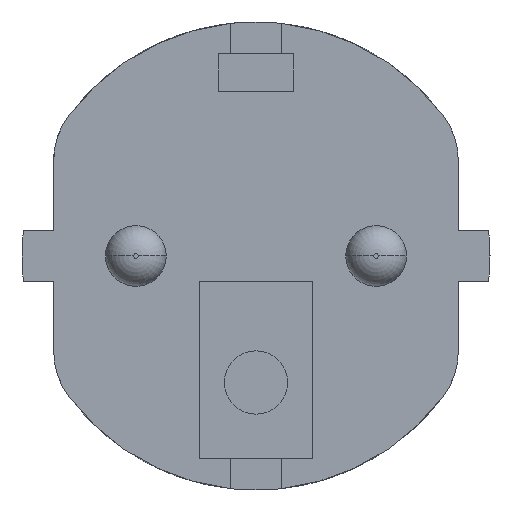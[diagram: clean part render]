
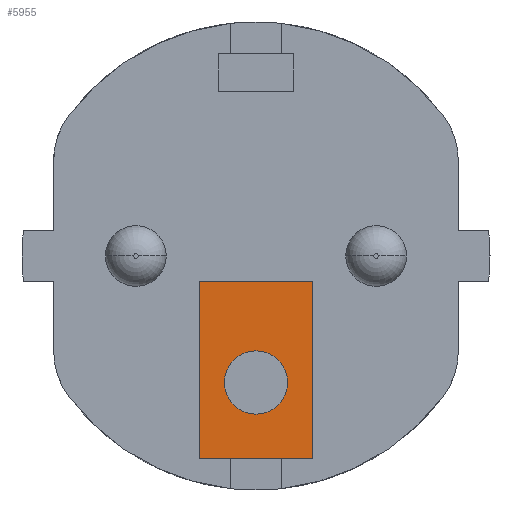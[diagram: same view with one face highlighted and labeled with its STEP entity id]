
A CAD part, front view. The second image highlights one B-rep face of the part: STEP entity #5955.
In plain terms, the highlighted planar face has unit normal (0, -1, 0) as drawn and (1, 0, 0) by its records, which use the part's own axes.
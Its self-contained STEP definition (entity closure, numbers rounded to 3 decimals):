
#120 = LINE ( 'NONE', #4898, #6771 ) ;
#292 = VERTEX_POINT ( 'NONE', #317 ) ;
#317 = CARTESIAN_POINT ( 'NONE',  ( 438.6, 224.5, 417.5 ) ) ;
#337 = AXIS2_PLACEMENT_3D ( 'NONE', #552, #6834, #9253 ) ;
#372 = LINE ( 'NONE', #3616, #8650 ) ;
#377 = EDGE_CURVE ( 'NONE', #10053, #2213, #372, .T. ) ;
#552 = CARTESIAN_POINT ( 'NONE',  ( 438.6, 222., 417.5 ) ) ;
#605 = VECTOR ( 'NONE', #6792, 1000. ) ;
#854 = DIRECTION ( 'NONE',  ( 0., -1., 0. ) ) ;
#1076 = FACE_BOUND ( 'NONE', #1927, .T. ) ;
#1400 = CARTESIAN_POINT ( 'NONE',  ( 438.6, 228., 413. ) ) ;
#1415 = EDGE_CURVE ( 'NONE', #8469, #4173, #8133, .T. ) ;
#1774 = AXIS2_PLACEMENT_3D ( 'NONE', #10212, #2257, #8536 ) ;
#1883 = LINE ( 'NONE', #3586, #605 ) ;
#1927 = EDGE_LOOP ( 'NONE', ( #4421, #7378 ) ) ;
#2213 = VERTEX_POINT ( 'NONE', #8623 ) ;
#2257 = DIRECTION ( 'NONE',  ( 1., 0., 0. ) ) ;
#2415 = ORIENTED_EDGE ( 'NONE', *, *, #9798, .F. ) ;
#2464 = EDGE_CURVE ( 'NONE', #292, #6171, #7264, .T. ) ;
#2647 = CARTESIAN_POINT ( 'NONE',  ( 438.6, 219.5, 417.5 ) ) ;
#3446 = LINE ( 'NONE', #6465, #9130 ) ;
#3586 = CARTESIAN_POINT ( 'NONE',  ( 438.6, 228., 422. ) ) ;
#3616 = CARTESIAN_POINT ( 'NONE',  ( 438.6, 228., 3071.587 ) ) ;
#3627 = ORIENTED_EDGE ( 'NONE', *, *, #4353, .F. ) ;
#3748 = FACE_OUTER_BOUND ( 'NONE', #10333, .T. ) ;
#4092 = VECTOR ( 'NONE', #5495, 1000. ) ;
#4173 = VERTEX_POINT ( 'NONE', #4582 ) ;
#4214 = ORIENTED_EDGE ( 'NONE', *, *, #10188, .F. ) ;
#4234 = CARTESIAN_POINT ( 'NONE',  ( 438.6, 214., 413. ) ) ;
#4353 = EDGE_CURVE ( 'NONE', #4173, #8207, #3446, .T. ) ;
#4421 = ORIENTED_EDGE ( 'NONE', *, *, #2464, .F. ) ;
#4582 = CARTESIAN_POINT ( 'NONE',  ( 438.6, 214., 422. ) ) ;
#4711 = AXIS2_PLACEMENT_3D ( 'NONE', #9401, #6194, #5718 ) ;
#4898 = CARTESIAN_POINT ( 'NONE',  ( 438.6, 228., 413. ) ) ;
#5133 = ORIENTED_EDGE ( 'NONE', *, *, #377, .T. ) ;
#5191 = CARTESIAN_POINT ( 'NONE',  ( 438.6, 228., 422. ) ) ;
#5389 = LINE ( 'NONE', #7800, #4092 ) ;
#5495 = DIRECTION ( 'NONE',  ( 0., 0., -1. ) ) ;
#5699 = EDGE_CURVE ( 'NONE', #10053, #9521, #1883, .T. ) ;
#5718 = DIRECTION ( 'NONE',  ( 0., 1., 0. ) ) ;
#5955 = ADVANCED_FACE ( 'NONE', ( #1076, #3748 ), #6164, .T. ) ;
#6040 = DIRECTION ( 'NONE',  ( 0., 0., 1. ) ) ;
#6164 = PLANE ( 'NONE',  #1774 ) ;
#6171 = VERTEX_POINT ( 'NONE', #2647 ) ;
#6194 = DIRECTION ( 'NONE',  ( 1., 0., 0. ) ) ;
#6254 = VECTOR ( 'NONE', #8180, 1000. ) ;
#6465 = CARTESIAN_POINT ( 'NONE',  ( 438.6, 214., 422. ) ) ;
#6771 = VECTOR ( 'NONE', #854, 1000. ) ;
#6792 = DIRECTION ( 'NONE',  ( 0., 0., -1. ) ) ;
#6834 = DIRECTION ( 'NONE',  ( 1., 0., 0. ) ) ;
#7208 = CARTESIAN_POINT ( 'NONE',  ( 438.6, 228., 415.5 ) ) ;
#7264 = CIRCLE ( 'NONE', #337, 2.5 ) ;
#7378 = ORIENTED_EDGE ( 'NONE', *, *, #8370, .F. ) ;
#7697 = ORIENTED_EDGE ( 'NONE', *, *, #5699, .F. ) ;
#7800 = CARTESIAN_POINT ( 'NONE',  ( 438.6, 228., 422. ) ) ;
#8133 = LINE ( 'NONE', #9712, #6254 ) ;
#8142 = DIRECTION ( 'NONE',  ( 0., 1., 0. ) ) ;
#8180 = DIRECTION ( 'NONE',  ( 0., 0., 1. ) ) ;
#8207 = VERTEX_POINT ( 'NONE', #5191 ) ;
#8264 = ORIENTED_EDGE ( 'NONE', *, *, #1415, .F. ) ;
#8370 = EDGE_CURVE ( 'NONE', #6171, #292, #8888, .T. ) ;
#8469 = VERTEX_POINT ( 'NONE', #4234 ) ;
#8536 = DIRECTION ( 'NONE',  ( 0., 0., 1. ) ) ;
#8623 = CARTESIAN_POINT ( 'NONE',  ( 438.6, 228., 419.5 ) ) ;
#8650 = VECTOR ( 'NONE', #6040, 1000. ) ;
#8888 = CIRCLE ( 'NONE', #4711, 2.5 ) ;
#9130 = VECTOR ( 'NONE', #8142, 1000. ) ;
#9253 = DIRECTION ( 'NONE',  ( 0., 1., 0. ) ) ;
#9401 = CARTESIAN_POINT ( 'NONE',  ( 438.6, 222., 417.5 ) ) ;
#9521 = VERTEX_POINT ( 'NONE', #1400 ) ;
#9712 = CARTESIAN_POINT ( 'NONE',  ( 438.6, 214., 413. ) ) ;
#9798 = EDGE_CURVE ( 'NONE', #8207, #2213, #5389, .T. ) ;
#10053 = VERTEX_POINT ( 'NONE', #7208 ) ;
#10188 = EDGE_CURVE ( 'NONE', #9521, #8469, #120, .T. ) ;
#10212 = CARTESIAN_POINT ( 'NONE',  ( 438.6, 200.567, 422.536 ) ) ;
#10333 = EDGE_LOOP ( 'NONE', ( #3627, #8264, #4214, #7697, #5133, #2415 ) ) ;
